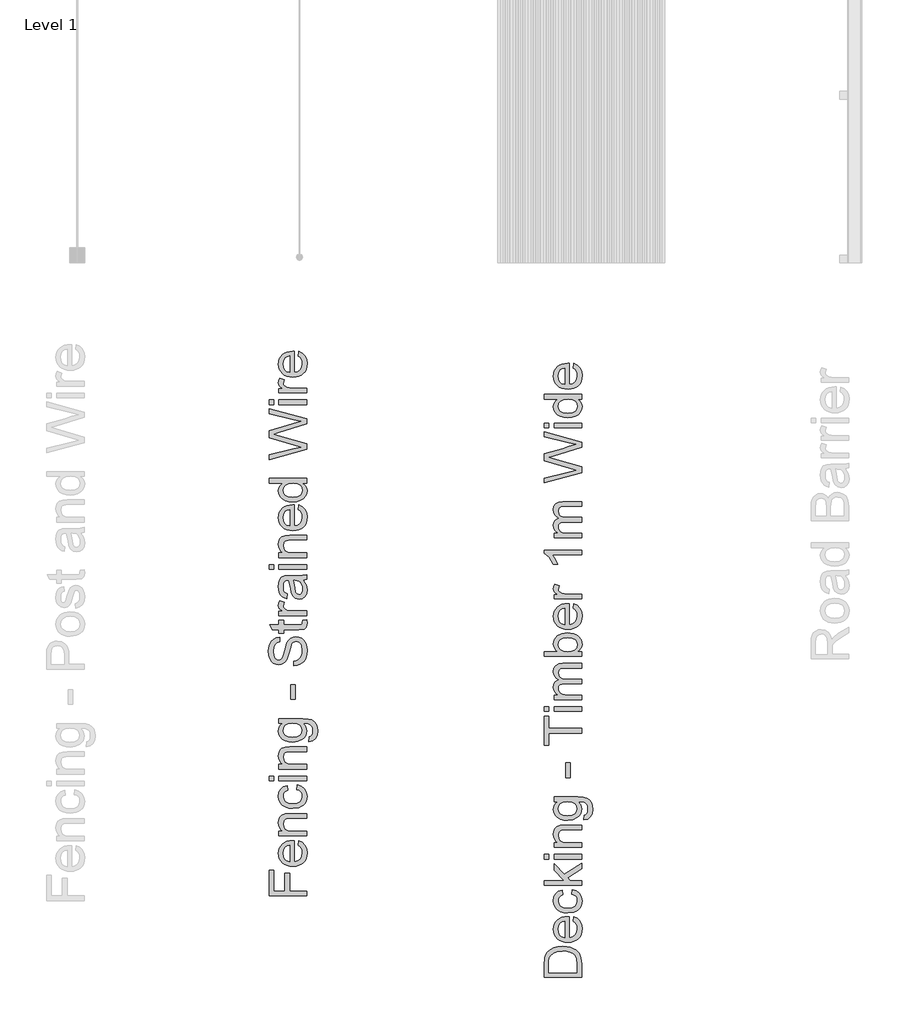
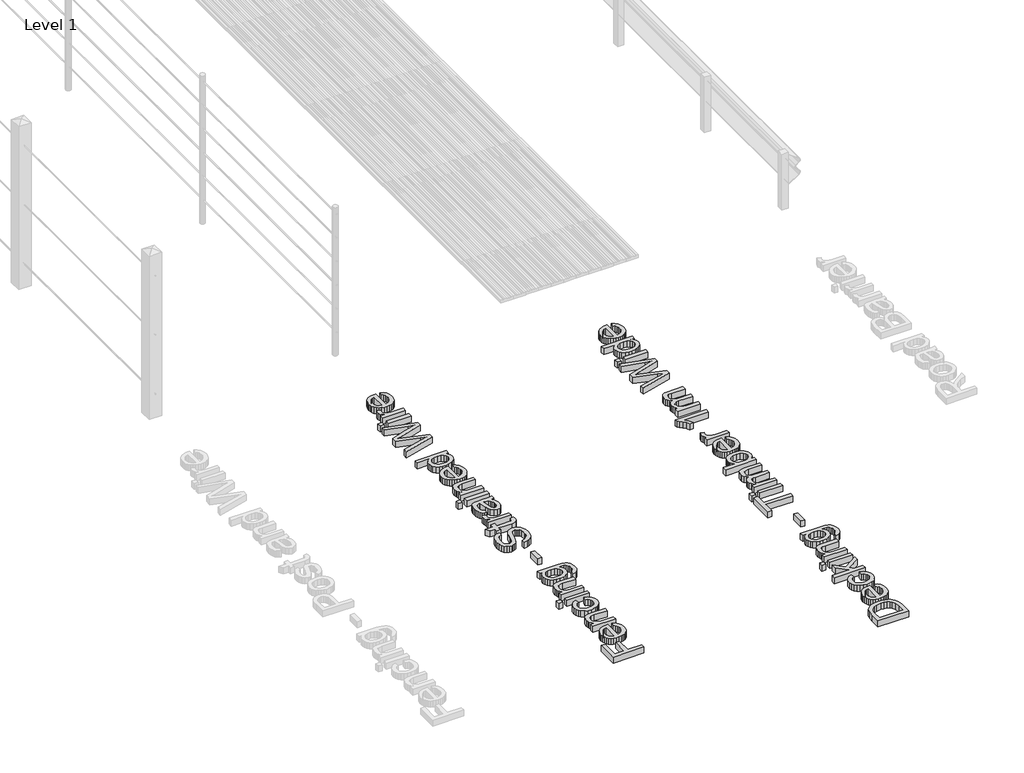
# One storey, part 6 of 7: 2 proxies.
"""IFC4 building model written with IfcOpenShell, lengths in millimetres."""

import ifcopenshell
import ifcopenshell.guid

model = None  # the IFC model being written
_history = None  # IfcOwnerHistory: only IFC2X3 demands one
_inside = {}  # id of a spatial element -> (the spatial element, [elements in it])
_under = {}  # id of a project, library or spatial element -> (it, [spatial elements below it])
_declared = {}  # id of a project -> (the project, [libraries it declares])
_typed = {}  # id of a type object -> (the type object, [elements of that type])
_made_of = {}  # id of a material, layer set ... -> (it, [elements and type objects made of it])


def new_model(schema):
    """Start an empty IFC model of exactly this schema.

    Asked for "IFC4X3", IfcOpenShell would pick the latest addendum, in which some entities
    have other attributes; the version numbers below select the first issue.
    IFC2X3 requires an IfcOwnerHistory on every rooted entity: one is made here for all.
    """
    global model, _history
    if schema == "IFC4X3":
        model = ifcopenshell.file(schema_version=(4, 3, 0, 0))
    else:
        model = ifcopenshell.file(schema=schema)
    _inside.clear()
    _under.clear()
    _declared.clear()
    _typed.clear()
    _made_of.clear()
    _history = None
    if model.schema == "IFC2X3":
        org = make("IfcOrganization", Name="unknown")
        user = make(
            "IfcPersonAndOrganization",
            ThePerson=make("IfcPerson", FamilyName="unknown"),
            TheOrganization=org,
        )
        app = make(
            "IfcApplication",
            ApplicationDeveloper=org,
            Version="unknown",
            ApplicationFullName="unknown",
            ApplicationIdentifier="unknown",
        )
        _history = make(
            "IfcOwnerHistory",
            OwningUser=user,
            OwningApplication=app,
            ChangeAction="ADDED",
            CreationDate=0,
        )
    return model


def make(cls, **values):
    """One entity of the class cls with the attributes given. An attribute that is None is left unset."""
    return model.create_entity(
        cls, **{name: value for name, value in values.items() if value is not None}
    )


def rooted(cls, **values):
    """An entity with a GlobalId (a new one), such as an element, a storey or a relation."""
    return make(cls, GlobalId=ifcopenshell.guid.new(), OwnerHistory=_history, **values)


def si_unit(unit_type, name, prefix=None):
    """IfcSIUnit, for example si_unit("LENGTHUNIT", "METRE", prefix="MILLI")."""
    return make("IfcSIUnit", UnitType=unit_type, Prefix=prefix, Name=name)


def assignment(units):
    """IfcUnitAssignment: the units of a project."""
    return None if units is None else make("IfcUnitAssignment", Units=units)


def point(xyz):
    """IfcCartesianPoint."""
    return None if xyz is None else make("IfcCartesianPoint", Coordinates=xyz)


def direction(xyz):
    """IfcDirection."""
    return None if xyz is None else make("IfcDirection", DirectionRatios=xyz)


def frame(location, z_axis=None, x_axis=None):
    """IfcAxis2Placement3D, a coordinate frame: its origin and axes. An axis left out is left unset."""
    return make(
        "IfcAxis2Placement3D",
        Location=point(location),
        Axis=direction(z_axis),
        RefDirection=direction(x_axis),
    )


def origin():
    """The frame at (0, 0, 0) with its axes left unset."""
    return frame((0.0, 0.0, 0.0))


def origin_with_axes():
    """The frame at (0, 0, 0) with the z axis (0, 0, 1) and the x axis (1, 0, 0) written out."""
    return frame((0.0, 0.0, 0.0), z_axis=(0.0, 0.0, 1.0), x_axis=(1.0, 0.0, 0.0))


def place(relative_to, where):
    """IfcLocalPlacement: puts the frame where relative to a parent placement (None: the world)."""
    return make(
        "IfcLocalPlacement", PlacementRelTo=relative_to, RelativePlacement=where
    )


def context(
    kind, dimensions, precision=None, world=None, true_north=None, identifier=None
):
    """IfcGeometricRepresentationContext, for example the 3D "Model" context."""
    return make(
        "IfcGeometricRepresentationContext",
        ContextIdentifier=identifier,
        ContextType=kind,
        CoordinateSpaceDimension=dimensions,
        Precision=precision,
        WorldCoordinateSystem=world,
        TrueNorth=true_north,
    )


def project(units=None, contexts=None):
    """IfcProject with its units and contexts."""
    return rooted(
        "IfcProject",
        Name="project",
        RepresentationContexts=contexts,
        UnitsInContext=assignment(units),
    )


def spatial(cls, under=None, at=None, **own):
    """A site, building, storey or space (cls), placed at a placement, below another one or the project."""
    s = rooted(cls, ObjectPlacement=at, **own)
    if under is not None:
        _under.setdefault(under.id(), (under, []))[1].append(s)
    return s


def polyline(points):
    """IfcPolyline through the points."""
    return make("IfcPolyline", Points=[point(p) for p in points])


def outline(outer, holes=None, kind="AREA"):
    """IfcArbitraryClosedProfileDef: a profile drawn as a closed curve; with holes, ...WithVoids."""
    if holes is None:
        return make("IfcArbitraryClosedProfileDef", ProfileType=kind, OuterCurve=outer)
    return make(
        "IfcArbitraryProfileDefWithVoids",
        ProfileType=kind,
        OuterCurve=outer,
        InnerCurves=holes,
    )


def extrude(swept, where, along, depth):
    """IfcExtrudedAreaSolid: the profile swept, set in the frame where, extruded along a direction by depth."""
    return make(
        "IfcExtrudedAreaSolid",
        SweptArea=swept,
        Position=where,
        ExtrudedDirection=direction(along),
        Depth=depth,
    )


def shape(context_of_items, identifier, shape_type, items):
    """IfcShapeRepresentation: the items that make up one representation, for example the "Body"."""
    return make(
        "IfcShapeRepresentation",
        ContextOfItems=context_of_items,
        RepresentationIdentifier=identifier,
        RepresentationType=shape_type,
        Items=items,
    )


def made_of(thing, what):
    """Note that an element or type object is made of a material, layer set ...; save() writes the relation."""
    if what is not None:
        _made_of.setdefault(what.id(), (what, []))[1].append(thing)
    return thing


def element(
    cls,
    number,
    at=None,
    inside=None,
    cuts=None,
    type_object=None,
    material=None,
    context=None,
    identifier="Body",
    shape_type=None,
    held_by="IfcProductDefinitionShape",
    body=None,
    shapes=None,
    **own,
):
    """One element of the class cls, such as IfcWall. Its Tag is "e" and its number.

    at: its placement. inside: the storey or other place that contains it. cuts: it is an
    opening in that element (IfcRelVoidsElement). A single representation is given by context,
    identifier, shape_type and body (its items); several are given by shapes. held_by: the class
    of the entity that holds the representations. save() writes the other relations.
    """
    e = rooted(cls, Tag="e%d" % number, ObjectPlacement=at, **own)
    if body is not None:
        shapes = [shape(context, identifier, shape_type, body)]
    if shapes is not None:
        e.Representation = make(held_by, Representations=shapes)
    if inside is not None:
        _inside.setdefault(inside.id(), (inside, []))[1].append(e)
    if cuts is not None:
        rooted(
            "IfcRelVoidsElement", RelatingBuildingElement=cuts, RelatedOpeningElement=e
        )
    if type_object is not None:
        _typed.setdefault(type_object.id(), (type_object, []))[1].append(e)
    return made_of(e, material)


def aggregate(whole, parts):
    """IfcRelAggregates: a whole, such as a stair, and the parts it consists of."""
    return rooted("IfcRelAggregates", RelatingObject=whole, RelatedObjects=parts)


def save(model, path):
    """Write the relations noted so far, then the file.

    IfcRelAggregates (storeys below a building ...), IfcRelContainedInSpatialStructure (elements
    in a storey), IfcRelDefinesByType, IfcRelAssociatesMaterial and IfcRelDeclares: one each for
    every whole, place, type object, material and project.
    """
    for whole, parts in _under.values():
        aggregate(whole, parts)
    for where, things in _inside.values():
        rooted(
            "IfcRelContainedInSpatialStructure",
            RelatedElements=things,
            RelatingStructure=where,
        )
    for kind, things in _typed.values():
        rooted("IfcRelDefinesByType", RelatedObjects=things, RelatingType=kind)
    for what, things in _made_of.values():
        rooted("IfcRelAssociatesMaterial", RelatedObjects=things, RelatingMaterial=what)
    for by, libraries in _declared.values():
        rooted("IfcRelDeclares", RelatingContext=by, RelatedDefinitions=libraries)
    model.write(path)


model = new_model("IFC4")

# Units and contexts
model_context = context("Model", 3, world=origin())
ifc_project = project(units=[si_unit("LENGTHUNIT", "METRE", prefix="MILLI")], contexts=[model_context])

# Site, building, storey
site = spatial("IfcSite", under=ifc_project)
building = spatial("IfcBuilding", under=site)
storey = spatial("IfcBuildingStorey", under=building, Name="Level 1", Elevation=0.0)

# Proxies
placement = place(None, origin())
element("IfcBuildingElementProxy", 1, Name="250mm Arial", ObjectType="250mm Arial", at=placement, inside=storey, context=model_context, shape_type="SweptSolid", body=[
    extrude(outline(polyline([(52003.1641347, -60632.3401509), (51757.0102885, -60632.3401509), (51757.0102885, -60466.9555355), (51787.7795193, -60466.9555355), (51787.7795193, -60601.5709201), (51860.8564423, -60601.5709201), (51860.8564423, -60486.1863047), (51891.6256731, -60486.1863047), (51891.6256731, -60601.5709201), (52003.1641347, -60601.5709201), (52003.1641347, -60632.3401509)])), origin_with_axes(), (0.0, 0.0, 1.0), 50.8),
    extrude(outline(polyline([(51949.3179808, -60301.931497), (51953.1641347, -60271.7632278), (51975.8955048, -60282.6331196), (51992.8876923, -60299.978372), (52003.4796395, -60323.40836), (52007.0102885, -60352.5324586), (52005.4872266, -60371.6242554), (52000.9180409, -60388.635223), (51993.3027314, -60403.5653612), (51982.6412981, -60416.4146701), (51969.2304658, -60426.7474525), (51953.3669592, -60434.1280114), (51935.0507783, -60438.5563468), (51914.2819231, -60440.0324586), (51892.8088161, -60438.5413227), (51873.8822837, -60434.0679153), (51857.5023258, -60426.6122362), (51843.6689423, -60416.1742855), (51832.6788582, -60403.3587807), (51824.8287981, -60388.7704393), (51820.1187621, -60372.4092614), (51818.54875, -60354.275247), (51820.115006, -60336.7252921), (51824.8137741, -60320.8542735), (51832.6450541, -60306.6621911), (51843.6088462, -60294.1490451), (51857.4121815, -60283.9345769), (51873.7620914, -60276.6385283), (51892.6585758, -60272.2608991), (51914.1016347, -60270.8016893), (51922.3949039, -60270.9819778), (51922.3949039, -60409.2632278), (51945.4267548, -60403.9372061), (51962.3588462, -60391.5649105), (51972.7705048, -60373.7088408), (51976.2410577, -60351.931497), (51974.6334856, -60335.5552951), (51969.8107693, -60321.7632278), (51961.4724279, -60310.5552951), (51949.3179808, -60301.931497)]), holes=[polyline([(51891.6256731, -60409.2632278), (51891.6256731, -60301.5709201), (51875.3696635, -60305.7325787), (51863.7410577, -60313.8906316), (51852.92375, -60331.8293336), (51849.3179808, -60354.3954393), (51852.1950842, -60375.1361244), (51860.8263943, -60392.2860643), (51874.2804207, -60404.2076388), (51891.6256731, -60409.2632278)])]), origin_with_axes(), (0.0, 0.0, 1.0), 50.8),
    extrude(outline(polyline([(52003.1641347, -60240.0324586), (51822.3949039, -60240.0324586), (51822.3949039, -60209.2632278), (51847.6352885, -60209.2632278), (51834.9099279, -60198.5736244), (51825.8203847, -60185.7355836), (51820.3666587, -60170.7491052), (51818.54875, -60153.6141893), (51824.408125, -60124.5576989), (51831.1839664, -60112.9741653), (51839.7927404, -60104.7259682), (51862.4189423, -60095.5012086), (51892.1665385, -60093.8786124), (52003.1641347, -60093.8786124), (52003.1641347, -60124.6478432), (51896.3131731, -60124.6478432), (51869.0896154, -60128.1935162), (51860.9841467, -60133.0988648), (51854.6965866, -60140.7235643), (51849.3179808, -60161.8473624), (51852.3378125, -60179.8686965), (51861.3973077, -60195.2307759), (51878.9003125, -60205.7551148), (51907.2506731, -60209.2632278), (52003.1641347, -60209.2632278), (52003.1641347, -60240.0324586)])), origin_with_axes(), (0.0, 0.0, 1.0), 50.8),
    extrude(outline(polyline([(51937.7795193, -59936.1863047), (51941.6256731, -59905.4170739), (51968.9919592, -59913.9957999), (51989.6725481, -59930.1165932), (52002.6758534, -59952.2620259), (52007.0102885, -59978.9146701), (52005.4984946, -59996.1716563), (52000.963113, -60011.6445379), (51993.4041437, -60025.3333149), (51982.8215866, -60037.2379874), (51969.4145103, -60046.8740301), (51953.3819832, -60053.7569177), (51913.440577, -60059.2632278), (51886.0592669, -60056.9119658), (51862.3287981, -60049.8581797), (51843.1656371, -60037.9891893), (51829.48625, -60021.1923143), (51821.283125, -60001.0976629), (51818.54875, -59979.3353432), (51822.3047597, -59953.3362446), (51833.5727885, -59932.5504874), (51851.751875, -59917.6391292), (51876.2410577, -59909.2632278), (51880.0872116, -59940.0324586), (51866.6632332, -59945.6138888), (51857.0403366, -59954.3052951), (51851.2485698, -59965.6259081), (51849.3179808, -59979.0949586), (51853.1190625, -59998.9792735), (51864.5223077, -60014.7620259), (51884.143702, -60025.0610042), (51912.5992308, -60028.493997), (51941.4378726, -60025.1361244), (51961.126875, -60015.0625066), (51972.4625121, -59999.565211), (51976.2410577, -59979.9363047), (51973.8822837, -59964.0033119), (51966.8059616, -59950.9399105), (51954.8318029, -59941.4372061), (51937.7795193, -59936.1863047)])), origin_with_axes(), (0.0, 0.0, 1.0), 50.8),
    extrude(outline(polyline([(51787.7795193, -59878.493997), (51757.0102885, -59878.493997), (51757.0102885, -59847.7247662), (51787.7795193, -59847.7247662), (51787.7795193, -59878.493997)])), origin_with_axes(), (0.0, 0.0, 1.0), 50.8),
    extrude(outline(polyline([(52003.1641347, -59878.493997), (51822.3949039, -59878.493997), (51822.3949039, -59847.7247662), (52003.1641347, -59847.7247662), (52003.1641347, -59878.493997)])), origin_with_axes(), (0.0, 0.0, 1.0), 50.8),
    extrude(outline(polyline([(52003.1641347, -59801.5709201), (51822.3949039, -59801.5709201), (51822.3949039, -59770.8016893), (51847.6352885, -59770.8016893), (51834.9099279, -59760.112086), (51825.8203847, -59747.2740451), (51820.3666587, -59732.2875667), (51818.54875, -59715.1526509), (51824.408125, -59686.0961605), (51831.1839664, -59674.5126268), (51839.7927404, -59666.2644297), (51862.4189423, -59657.0396701), (51892.1665385, -59655.4170739), (52003.1641347, -59655.4170739), (52003.1641347, -59686.1863047), (51896.3131731, -59686.1863047), (51869.0896154, -59689.7319778), (51860.9841467, -59694.6373263), (51854.6965866, -59702.2620259), (51849.3179808, -59723.3858239), (51852.3378125, -59741.4071581), (51861.3973077, -59756.7692374), (51878.9003125, -59767.2935763), (51907.2506731, -59770.8016893), (52003.1641347, -59770.8016893), (52003.1641347, -59801.5709201)])), origin_with_axes(), (0.0, 0.0, 1.0), 50.8),
    extrude(outline(polyline([(52018.54875, -59620.8016893), (52022.3949039, -59590.0324586), (52032.0102885, -59586.6370259), (52038.6208654, -59580.056497), (52043.7590866, -59567.1207999), (52045.471827, -59550.1887086), (52043.533726, -59532.1298143), (52037.7194231, -59518.6983239), (52028.4045193, -59509.3834201), (52015.9646154, -59503.6742855), (51980.0872116, -59501.5709201), (51997.3949039, -59523.2355836), (52003.1641347, -59549.6478432), (52001.4851984, -59566.5179604), (51996.4483895, -59581.3711004), (51988.053708, -59594.2072632), (51976.3011539, -59605.0264489), (51946.7638943, -59619.7424946), (51911.878077, -59624.6478432), (51887.0358294, -59622.4468215), (51864.1917789, -59615.8437566), (51844.8333053, -59605.0715211), (51830.4477885, -59590.3629874), (51821.5235097, -59572.221461), (51818.54875, -59551.150247), (51820.2314423, -59536.7609742), (51825.2795193, -59523.7013287), (51833.6929808, -59511.9713107), (51845.471827, -59501.5709201), (51822.3949039, -59501.5709201), (51822.3949039, -59470.8016893), (51978.4646154, -59470.8016893), (52014.4997717, -59472.9050547), (52038.2302404, -59479.2151509), (52053.9679207, -59490.0850427), (52066.0247116, -59505.8677951), (52073.6869712, -59526.2178552), (52076.2410577, -59550.7896701), (52072.6428005, -59579.4179754), (52061.8480289, -59601.9615451), (52043.8266948, -59616.4221821), (52018.54875, -59620.8016893)]), holes=[polyline([(51909.7747116, -59593.8786124), (51937.9973678, -59590.59586), (51957.4009135, -59580.7476028), (51968.6464063, -59565.9414129), (51972.3949039, -59547.7848624), (51968.6689423, -59529.7635283), (51957.4910577, -59514.8822182), (51938.3354087, -59504.8987446), (51910.6761539, -59501.5709201), (51884.0009736, -59504.9964009), (51864.7927404, -59515.2728432), (51853.1866707, -59530.3720018), (51849.3179808, -59548.2656316), (51853.1265746, -59565.8362446), (51864.5523558, -59580.5673143), (51883.4751323, -59590.5507879), (51909.7747116, -59593.8786124)])]), origin_with_axes(), (0.0, 0.0, 1.0), 50.8),
    extrude(outline(polyline([(51930.0872116, -59343.8786124), (51899.3179808, -59343.8786124), (51899.3179808, -59247.7247662), (51930.0872116, -59247.7247662), (51930.0872116, -59343.8786124)])), origin_with_axes(), (0.0, 0.0, 1.0), 50.8),
    extrude(outline(polyline([(51918.54875, -59124.6478432), (51918.54875, -59093.8786124), (51935.6235698, -59090.3479634), (51949.3480289, -59083.962747), (51960.2404568, -59074.0018095), (51968.8191827, -59059.743997), (51974.385589, -59042.3161124), (51976.2410577, -59022.8449586), (51970.6220673, -58990.6935162), (51963.9513943, -58978.5315571), (51955.1773558, -58969.9302951), (51945.103738, -58964.81461), (51934.534327, -58963.1093816), (51915.3336058, -58968.2175547), (51907.7389544, -58976.0000066), (51901.36125, -58989.1310162), (51889.612452, -59033.9326989), (51874.4381731, -59082.1598624), (51864.0866106, -59097.4768696), (51851.5415385, -59108.3317374), (51837.0733895, -59114.799586), (51820.9525962, -59116.9555355), (51802.9312621, -59114.2887686), (51786.126875, -59106.2884682), (51771.8840866, -59093.1649706), (51761.5475481, -59075.1286124), (51755.259988, -59053.478973), (51753.1641347, -59029.5156316), (51755.3576443, -59003.5540932), (51761.9381731, -58980.837747), (51772.7705048, -58962.1778912), (51787.7194231, -58948.3858239), (51805.8534375, -58939.6568576), (51826.2410577, -58936.1863047), (51826.2410577, -58966.9555355), (51807.8816827, -58972.6045739), (51794.6304808, -58984.3834201), (51786.6076443, -59002.7878672), (51783.9333654, -59028.3137086), (51786.5775962, -59054.4405114), (51794.5102885, -59072.3641893), (51806.1839664, -59082.7307759), (51820.0511539, -59086.1863047), (51831.8750722, -59083.7373864), (51841.3852885, -59076.3906316), (51849.8888943, -59059.0228432), (51858.5727885, -59026.150247), (51874.0175, -58971.7031316), (51885.1803606, -58954.1625667), (51898.9574039, -58941.9254874), (51915.1983895, -58934.736485), (51933.753077, -58932.3401509), (51952.7209255, -58935.0970619), (51970.5619712, -58943.3677951), (51985.9165385, -58956.8143095), (51997.424952, -58975.0985643), (52004.6139544, -58997.0862446), (52007.0102885, -59021.6430355), (52004.4261539, -59051.7887686), (51996.67375, -59076.6009682), (51983.7230289, -59096.3650908), (51965.5439423, -59111.3665932), (51943.3985097, -59120.9970018), (51918.54875, -59124.6478432)])), origin_with_axes(), (0.0, 0.0, 1.0), 50.8),
    extrude(outline(polyline([(51977.503077, -58824.6478432), (52004.065577, -58820.8016893), (52007.0102885, -58843.8185162), (52005.7332452, -58858.5871461), (52001.9021154, -58869.5997662), (51988.5006731, -58882.4603432), (51953.5848077, -58886.1863047), (51853.1641347, -58886.1863047), (51853.1641347, -58909.2632278), (51822.3949039, -58909.2632278), (51822.3949039, -58886.1863047), (51778.4646154, -58886.1863047), (51760.3756731, -58855.4170739), (51822.3949039, -58855.4170739), (51822.3949039, -58824.6478432), (51853.1641347, -58824.6478432), (51853.1641347, -58855.4170739), (51952.6833654, -58855.4170739), (51968.54875, -58853.7944778), (51974.1677404, -58848.5360643), (51976.2410577, -58838.0492855), (51977.503077, -58824.6478432)])), origin_with_axes(), (0.0, 0.0, 1.0), 50.8),
    extrude(outline(polyline([(52003.1641347, -58793.8786124), (51822.3949039, -58793.8786124), (51822.3949039, -58766.9555355), (51849.1376923, -58766.9555355), (51833.6328847, -58757.009622), (51824.4982693, -58747.8449586), (51818.54875, -58728.6141893), (51820.9225481, -58713.2896701), (51828.0439423, -58697.7247662), (51855.628077, -58708.0012086), (51849.3179808, -58729.6358239), (51850.8354087, -58738.8230235), (51855.3876923, -58747.0336605), (51872.2146154, -58758.1214009), (51908.1521154, -58763.1093816), (52003.1641347, -58763.1093816), (52003.1641347, -58793.8786124)])), origin_with_axes(), (0.0, 0.0, 1.0), 50.8),
    extrude(outline(polyline([(51980.0872116, -58563.1093816), (51992.6923798, -58577.8104033), (52000.940577, -58592.947122), (52005.4928606, -58608.8650908), (52007.0102885, -58625.9098624), (52003.3594472, -58651.6235042), (51992.4069231, -58670.5913528), (51975.7753125, -58682.2875667), (51955.0872116, -58686.1863047), (51930.7482693, -58680.2968816), (51913.08, -58664.822122), (51902.9838462, -58643.2776509), (51898.3564423, -58616.6550547), (51887.7795193, -58563.2896701), (51880.9285577, -58563.1093816), (51867.1965866, -58565.2277711), (51858.2122116, -58571.5829393), (51851.5415385, -58585.7956797), (51849.3179808, -58605.5973624), (51850.7978486, -58623.9266893), (51855.237452, -58636.7271701), (51863.448089, -58645.4561364), (51876.2410577, -58651.5709201), (51872.3949039, -58682.3401509), (51855.5679808, -58676.9991052), (51842.346827, -58669.0288528), (51832.2356491, -58657.6857037), (51824.7386539, -58642.2259682), (51820.096226, -58623.3182158), (51818.54875, -58601.6310162), (51819.9159375, -58580.830235), (51824.0175, -58564.3413528), (51830.1848678, -58551.908961), (51837.7494712, -58543.2776509), (51858.6328847, -58533.8425547), (51885.5559616, -58532.3401509), (51923.8372116, -58532.3401509), (51977.2927404, -58530.7776509), (52003.1641347, -58524.6478432), (52003.1641347, -58555.4170739), (51980.0872116, -58563.1093816)]), holes=[polyline([(51918.54875, -58563.1093816), (51927.9838462, -58612.7488047), (51932.971827, -58639.2211605), (51941.0848077, -58651.2103432), (51952.92375, -58655.4170739), (51962.0733895, -58653.1259081), (51969.5703847, -58646.2524105), (51974.5733895, -58634.9468215), (51976.2410577, -58619.3593816), (51974.400613, -58602.8329393), (51968.8792789, -58588.2295739), (51960.7437621, -58576.3906316), (51951.0607693, -58568.1574586), (51927.2626923, -58563.2896701), (51918.54875, -58563.1093816)])]), origin_with_axes(), (0.0, 0.0, 1.0), 50.8),
    extrude(outline(polyline([(51787.7795193, -58490.0324586), (51757.0102885, -58490.0324586), (51757.0102885, -58459.2632278), (51787.7795193, -58459.2632278), (51787.7795193, -58490.0324586)])), origin_with_axes(), (0.0, 0.0, 1.0), 50.8),
    extrude(outline(polyline([(52003.1641347, -58490.0324586), (51822.3949039, -58490.0324586), (51822.3949039, -58459.2632278), (52003.1641347, -58459.2632278), (52003.1641347, -58490.0324586)])), origin_with_axes(), (0.0, 0.0, 1.0), 50.8),
    extrude(outline(polyline([(52003.1641347, -58413.1093816), (51822.3949039, -58413.1093816), (51822.3949039, -58382.3401509), (51847.6352885, -58382.3401509), (51834.9099279, -58371.6505475), (51825.8203847, -58358.8125066), (51820.3666587, -58343.8260283), (51818.54875, -58326.6911124), (51824.408125, -58297.634622), (51831.1839664, -58286.0510884), (51839.7927404, -58277.8028912), (51862.4189423, -58268.5781316), (51892.1665385, -58266.9555355), (52003.1641347, -58266.9555355), (52003.1641347, -58297.7247662), (51896.3131731, -58297.7247662), (51869.0896154, -58301.2704393), (51860.9841467, -58306.1757879), (51854.6965866, -58313.8004874), (51849.3179808, -58334.9242855), (51852.3378125, -58352.9456196), (51861.3973077, -58368.3076989), (51878.9003125, -58378.8320379), (51907.2506731, -58382.3401509), (52003.1641347, -58382.3401509), (52003.1641347, -58413.1093816)])), origin_with_axes(), (0.0, 0.0, 1.0), 50.8),
    extrude(outline(polyline([(51949.3179808, -58098.0853432), (51953.1641347, -58067.9170739), (51975.8955048, -58078.7869658), (51992.8876923, -58096.1322182), (52003.4796395, -58119.5622061), (52007.0102885, -58148.6863047), (52005.4872266, -58167.7781016), (52000.9180409, -58184.7890691), (51993.3027314, -58199.7192074), (51982.6412981, -58212.5685162), (51969.2304658, -58222.9012987), (51953.3669592, -58230.2818576), (51935.0507783, -58234.7101929), (51914.2819231, -58236.1863047), (51892.8088161, -58234.6951689), (51873.8822837, -58230.2217614), (51857.5023258, -58222.7660824), (51843.6689423, -58212.3281316), (51832.6788582, -58199.5126268), (51824.8287981, -58184.9242855), (51820.1187621, -58168.5631076), (51818.54875, -58150.4290932), (51820.115006, -58132.8791382), (51824.8137741, -58117.0081196), (51832.6450541, -58102.8160373), (51843.6088462, -58090.3028912), (51857.4121815, -58080.0884231), (51873.7620914, -58072.7923744), (51892.6585758, -58068.4147452), (51914.1016347, -58066.9555355), (51922.3949039, -58067.1358239), (51922.3949039, -58205.4170739), (51945.4267548, -58200.0910523), (51962.3588462, -58187.7187566), (51972.7705048, -58169.8626869), (51976.2410577, -58148.0853432), (51974.6334856, -58131.7091412), (51969.8107693, -58117.9170739), (51961.4724279, -58106.7091412), (51949.3179808, -58098.0853432)]), holes=[polyline([(51891.6256731, -58205.4170739), (51891.6256731, -58097.7247662), (51875.3696635, -58101.8864249), (51863.7410577, -58110.0444778), (51852.92375, -58127.9831797), (51849.3179808, -58150.5492855), (51852.1950842, -58171.2899706), (51860.8263943, -58188.4399105), (51874.2804207, -58200.361485), (51891.6256731, -58205.4170739)])]), origin_with_axes(), (0.0, 0.0, 1.0), 50.8),
    extrude(outline(polyline([(52003.1641347, -57924.6478432), (51974.1376923, -57924.6478432), (51988.5194532, -57933.8538227), (51998.7921395, -57945.0054153), (52004.9557512, -57958.1026208), (52007.0102885, -57973.1454393), (52004.0355289, -57993.0372662), (51995.11125, -58011.2464009), (51980.8609496, -58026.6610643), (51961.908125, -58038.1694778), (51939.0190024, -58045.3359441), (51912.9598077, -58047.7247662), (51887.2236298, -58045.5237446), (51863.9814423, -58038.9206797), (51844.5553606, -58027.9230836), (51830.2675, -58012.5384682), (51821.4784375, -57993.9311965), (51818.54875, -57973.2656316), (51820.6446034, -57958.2115451), (51826.9321635, -57944.900247), (51836.5700842, -57933.6171941), (51848.7170193, -57924.6478432), (51757.0102885, -57924.6478432), (51757.0102885, -57893.8786124), (52003.1641347, -57893.8786124), (52003.1641347, -57924.6478432)]), holes=[polyline([(51912.8396154, -58016.9555355), (51940.6716467, -58013.4849826), (51960.4658173, -58003.0733239), (51972.2972476, -57987.9441172), (51976.2410577, -57970.3209201), (51972.4775361, -57952.705235), (51961.1869712, -57937.9591412), (51942.1590265, -57927.9756677), (51915.1833654, -57924.6478432), (51885.6911779, -57928.0357638), (51865.2434616, -57938.1995259), (51853.299351, -57953.3212206), (51849.3179808, -57971.5829393), (51853.1415986, -57989.3864249), (51864.612452, -58003.9747662), (51884.3164784, -58013.7103432), (51912.8396154, -58016.9555355)])]), origin_with_axes(), (0.0, 0.0, 1.0), 50.8),
    extrude(outline(polyline([(52003.1641347, -57703.6742855), (51757.0102885, -57770.8016893), (51757.0102885, -57739.0709201), (51918.7891347, -57700.1286124), (51968.7290385, -57688.1093816), (51924.5583654, -57675.2488047), (51757.0102885, -57626.4507278), (51757.0102885, -57580.7175547), (51878.4646154, -57545.2608239), (51923.5367308, -57530.0715211), (51968.7290385, -57518.8786124), (51920.2314423, -57507.2199586), (51757.0102885, -57467.9170739), (51757.0102885, -57436.1863047), (52003.1641347, -57503.3738047), (52003.1641347, -57536.2464009), (51813.2602885, -57595.2608239), (51786.7578847, -57603.493997), (51818.6689423, -57612.7488047), (52003.1641347, -57666.5348624), (52003.1641347, -57703.6742855)])), origin_with_axes(), (0.0, 0.0, 1.0), 50.8),
    extrude(outline(polyline([(51787.7795193, -57409.2632278), (51757.0102885, -57409.2632278), (51757.0102885, -57378.493997), (51787.7795193, -57378.493997), (51787.7795193, -57409.2632278)])), origin_with_axes(), (0.0, 0.0, 1.0), 50.8),
    extrude(outline(polyline([(52003.1641347, -57409.2632278), (51822.3949039, -57409.2632278), (51822.3949039, -57378.493997), (52003.1641347, -57378.493997), (52003.1641347, -57409.2632278)])), origin_with_axes(), (0.0, 0.0, 1.0), 50.8),
    extrude(outline(polyline([(52003.1641347, -57332.3401509), (51822.3949039, -57332.3401509), (51822.3949039, -57305.4170739), (51849.1376923, -57305.4170739), (51833.6328847, -57295.4711605), (51824.4982693, -57286.306497), (51818.54875, -57267.0757278), (51820.9225481, -57251.7512086), (51828.0439423, -57236.1863047), (51855.628077, -57246.462747), (51849.3179808, -57268.0973624), (51850.8354087, -57277.2845619), (51855.3876923, -57285.4951989), (51872.2146154, -57296.5829393), (51908.1521154, -57301.5709201), (52003.1641347, -57301.5709201), (52003.1641347, -57332.3401509)])), origin_with_axes(), (0.0, 0.0, 1.0), 50.8),
    extrude(outline(polyline([(51949.3179808, -57090.3930355), (51953.1641347, -57060.2247662), (51975.8955048, -57071.0946581), (51992.8876923, -57088.4399105), (52003.4796395, -57111.8698985), (52007.0102885, -57140.993997), (52005.4872266, -57160.0857939), (52000.9180409, -57177.0967614), (51993.3027314, -57192.0268997), (51982.6412981, -57204.8762086), (51969.2304658, -57215.208991), (51953.3669592, -57222.5895499), (51935.0507783, -57227.0178852), (51914.2819231, -57228.493997), (51892.8088161, -57227.0028612), (51873.8822837, -57222.5294537), (51857.5023258, -57215.0737747), (51843.6689423, -57204.6358239), (51832.6788582, -57191.8203191), (51824.8287981, -57177.2319778), (51820.1187621, -57160.8707999), (51818.54875, -57142.7367855), (51820.115006, -57125.1868305), (51824.8137741, -57109.3158119), (51832.6450541, -57095.1237296), (51843.6088462, -57082.6105836), (51857.4121815, -57072.3961154), (51873.7620914, -57065.1000667), (51892.6585758, -57060.7224375), (51914.1016347, -57059.2632278), (51922.3949039, -57059.4435162), (51922.3949039, -57197.7247662), (51945.4267548, -57192.3987446), (51962.3588462, -57180.0264489), (51972.7705048, -57162.1703792), (51976.2410577, -57140.3930355), (51974.6334856, -57124.0168336), (51969.8107693, -57110.2247662), (51961.4724279, -57099.0168336), (51949.3179808, -57090.3930355)]), holes=[polyline([(51891.6256731, -57197.7247662), (51891.6256731, -57090.0324586), (51875.3696635, -57094.1941172), (51863.7410577, -57102.3521701), (51852.92375, -57120.290872), (51849.3179808, -57142.8569778), (51852.1950842, -57163.5976629), (51860.8263943, -57180.7476028), (51874.2804207, -57192.6691773), (51891.6256731, -57197.7247662)])]), origin_with_axes(), (0.0, 0.0, 1.0), 50.8),
])
element("IfcBuildingElementProxy", 2, Name="250mm Arial", ObjectType="250mm Arial", at=placement, inside=storey, context=model_context, shape_type="SweptSolid", body=[
    extrude(outline(polyline([(53808.2087659, -61168.9987925), (53562.0549197, -61168.9987925), (53562.0549197, -61084.0829271), (53565.6005928, -61040.1526386), (53572.4365303, -61020.5312444), (53583.2087659, -61003.974754), (53601.9587659, -60986.9525184), (53625.2760736, -60974.8281194), (53652.7099678, -60967.5715088), (53683.8097274, -60965.1526386), (53710.229499, -60966.7902588), (53733.4791986, -60971.7031194), (53753.2733692, -60979.1850905), (53769.3265543, -60988.5300425), (53791.6522755, -61011.006004), (53804.0020351, -61040.4230713), (53808.2087659, -61079.9963886), (53808.2087659, -61168.9987925)]), holes=[polyline([(53777.4395351, -61138.2295617), (53777.4395351, -61083.7824463), (53772.9924197, -61044.1790809), (53760.4323236, -61021.3425425), (53747.1135135, -61010.6529391), (53729.8734293, -61002.6225905), (53708.636951, -60997.5970497), (53683.3289582, -60995.9218694), (53649.7953043, -60999.2046218), (53625.0356889, -61009.052879), (53608.0284774, -61023.6036603), (53597.7520351, -61040.9939848), (53594.0561216, -61058.6923021), (53592.8241505, -61084.6237925), (53592.8241505, -61138.2295617), (53777.4395351, -61138.2295617)])]), origin_with_axes(), (0.0, 0.0, 1.0), 50.8),
    extrude(outline(polyline([(53754.362612, -60800.1286002), (53758.2087659, -60769.9603309), (53780.9401361, -60780.8302228), (53797.9323236, -60798.1754752), (53808.5242707, -60821.6054631), (53812.0549197, -60850.7295617), (53810.5318578, -60869.8213586), (53805.9626721, -60886.8323261), (53798.3473626, -60901.7624643), (53787.6859293, -60914.6117732), (53774.275097, -60924.9445557), (53758.4115904, -60932.3251146), (53740.0954095, -60936.7534499), (53719.3265543, -60938.2295617), (53697.8534474, -60936.7384259), (53678.9269149, -60932.2650184), (53662.546957, -60924.8093393), (53648.7135736, -60914.3713886), (53637.7234894, -60901.5558838), (53629.8734293, -60886.9675425), (53625.1633933, -60870.6063646), (53623.5933812, -60852.4723502), (53625.1596373, -60834.9223952), (53629.8584053, -60819.0513766), (53637.6896853, -60804.8592943), (53648.6534774, -60792.3461482), (53662.4568127, -60782.1316801), (53678.8067226, -60774.8356314), (53697.703207, -60770.4580022), (53719.1462659, -60768.9987925), (53727.4395351, -60769.1790809), (53727.4395351, -60907.4603309), (53750.4713861, -60902.1343093), (53767.4034774, -60889.7620136), (53777.8151361, -60871.9059439), (53781.2856889, -60850.1286002), (53779.6781168, -60833.7523982), (53774.8554005, -60819.9603309), (53766.5170591, -60808.7523982), (53754.362612, -60800.1286002)]), holes=[polyline([(53696.6703043, -60907.4603309), (53696.6703043, -60799.7680232), (53680.4142947, -60803.9296819), (53668.7856889, -60812.0877348), (53657.9683812, -60830.0264367), (53654.362612, -60852.5925425), (53657.2397154, -60873.3332276), (53665.8710255, -60890.4831675), (53679.3250519, -60902.404742), (53696.6703043, -60907.4603309)])]), origin_with_axes(), (0.0, 0.0, 1.0), 50.8),
    extrude(outline(polyline([(53742.8241505, -60622.8449463), (53746.6703043, -60592.0757155), (53774.0365904, -60600.6544415), (53794.7171793, -60616.7752348), (53807.7204846, -60638.9206675), (53812.0549197, -60665.5733117), (53810.5431258, -60682.8302979), (53806.0077442, -60698.3031795), (53798.4487749, -60711.9919565), (53787.8662178, -60723.896629), (53774.4591415, -60733.5326717), (53758.4266144, -60740.4155593), (53718.4852082, -60745.9218694), (53691.1038981, -60743.5706074), (53667.3734293, -60736.5168213), (53648.2102683, -60724.6478309), (53634.5308812, -60707.8509559), (53626.3277562, -60687.7563045), (53623.5933812, -60665.9939848), (53627.3493909, -60639.9948862), (53638.6174197, -60619.209129), (53656.7965062, -60604.2977708), (53681.2856889, -60595.9218694), (53685.1318428, -60626.6911002), (53671.7078644, -60632.2725305), (53662.0849678, -60640.9639367), (53656.293201, -60652.2845497), (53654.362612, -60665.7536002), (53658.1636937, -60685.6379151), (53669.5669389, -60701.4206675), (53689.1883332, -60711.7196458), (53717.643862, -60715.1526386), (53746.4825038, -60711.794766), (53766.1715062, -60701.7211482), (53777.5071433, -60686.2238526), (53781.2856889, -60666.5949463), (53778.9269149, -60650.6619535), (53771.8505928, -60637.5985521), (53759.8764341, -60628.0958478), (53742.8241505, -60622.8449463)])), origin_with_axes(), (0.0, 0.0, 1.0), 50.8),
    extrude(outline(polyline([(53808.2087659, -60565.1526386), (53562.0549197, -60565.1526386), (53562.0549197, -60534.3834079), (53694.3265543, -60534.3834079), (53627.4395351, -60465.3930232), (53627.4395351, -60422.8449463), (53695.1679005, -60492.6766771), (53808.2087659, -60418.9987925), (53808.2087659, -60454.9362925), (53716.5621312, -60514.7319655), (53735.612612, -60534.3834079), (53808.2087659, -60534.3834079), (53808.2087659, -60565.1526386)])), origin_with_axes(), (0.0, 0.0, 1.0), 50.8),
    extrude(outline(polyline([(53592.8241505, -60392.0757155), (53562.0549197, -60392.0757155), (53562.0549197, -60361.3064848), (53592.8241505, -60361.3064848), (53592.8241505, -60392.0757155)])), origin_with_axes(), (0.0, 0.0, 1.0), 50.8),
    extrude(outline(polyline([(53808.2087659, -60392.0757155), (53627.4395351, -60392.0757155), (53627.4395351, -60361.3064848), (53808.2087659, -60361.3064848), (53808.2087659, -60392.0757155)])), origin_with_axes(), (0.0, 0.0, 1.0), 50.8),
    extrude(outline(polyline([(53808.2087659, -60315.1526386), (53627.4395351, -60315.1526386), (53627.4395351, -60284.3834079), (53652.6799197, -60284.3834079), (53639.9545591, -60273.6938045), (53630.8650159, -60260.8557636), (53625.4112899, -60245.8692853), (53623.5933812, -60228.7343694), (53629.4527562, -60199.677879), (53636.2285976, -60188.0943454), (53644.8373716, -60179.8461482), (53667.4635736, -60170.6213886), (53697.2111697, -60168.9987925), (53808.2087659, -60168.9987925), (53808.2087659, -60199.7680232), (53701.3578043, -60199.7680232), (53674.1342466, -60203.3136963), (53666.0287779, -60208.2190449), (53659.7412178, -60215.8437444), (53654.362612, -60236.9675425), (53657.3824437, -60254.9888766), (53666.4419389, -60270.3509559), (53683.9449437, -60280.8752949), (53712.2953043, -60284.3834079), (53808.2087659, -60284.3834079), (53808.2087659, -60315.1526386)])), origin_with_axes(), (0.0, 0.0, 1.0), 50.8),
    extrude(outline(polyline([(53823.5933812, -60134.3834079), (53827.4395351, -60103.6141771), (53837.0549197, -60100.2187444), (53843.6654966, -60093.6382155), (53848.8037178, -60080.7025184), (53850.5164582, -60063.7704271), (53848.5783572, -60045.7115329), (53842.7640543, -60032.2800425), (53833.4491505, -60022.9651386), (53821.0092466, -60017.256004), (53785.1318428, -60015.1526386), (53802.4395351, -60036.8173021), (53808.2087659, -60063.2295617), (53806.5298296, -60080.0996789), (53801.4930207, -60094.9528189), (53793.0983392, -60107.7889818), (53781.3457851, -60118.6081675), (53751.8085255, -60133.3242131), (53716.9227082, -60138.2295617), (53692.0804606, -60136.0285401), (53669.2364101, -60129.4254752), (53649.8779365, -60118.6532396), (53635.4924197, -60103.9447059), (53626.5681409, -60085.8031795), (53623.5933812, -60064.7319655), (53625.2760736, -60050.3426927), (53630.3241505, -60037.2830473), (53638.737612, -60025.5530292), (53650.5164582, -60015.1526386), (53627.4395351, -60015.1526386), (53627.4395351, -59984.3834079), (53783.5092466, -59984.3834079), (53819.5444029, -59986.4867732), (53843.2748716, -59992.7968694), (53859.0125519, -60003.6667612), (53871.0693428, -60019.4495136), (53878.7316024, -60039.7995737), (53881.2856889, -60064.3713886), (53877.6874317, -60092.9996939), (53866.8926601, -60115.5432636), (53848.871326, -60130.0039006), (53823.5933812, -60134.3834079)]), holes=[polyline([(53714.8193428, -60107.4603309), (53743.041999, -60104.1775785), (53762.4455447, -60094.3293213), (53773.6910375, -60079.5231314), (53777.4395351, -60061.3665809), (53773.7135736, -60043.3452468), (53762.5356889, -60028.4639367), (53743.3800399, -60018.4804631), (53715.7207851, -60015.1526386), (53689.0456048, -60018.5781194), (53669.8373716, -60028.8545617), (53658.2313019, -60043.9537204), (53654.362612, -60061.8473502), (53658.1712058, -60079.4179631), (53669.596987, -60094.1490329), (53688.5197635, -60104.1325064), (53714.8193428, -60107.4603309)])]), origin_with_axes(), (0.0, 0.0, 1.0), 50.8),
    extrude(outline(polyline([(53735.1318428, -59857.4603309), (53704.362612, -59857.4603309), (53704.362612, -59761.3064848), (53735.1318428, -59761.3064848), (53735.1318428, -59857.4603309)])), origin_with_axes(), (0.0, 0.0, 1.0), 50.8),
    extrude(outline(polyline([(53808.2087659, -59565.1526386), (53592.8241505, -59565.1526386), (53592.8241505, -59645.9218694), (53562.0549197, -59645.9218694), (53562.0549197, -59453.6141771), (53592.8241505, -59453.6141771), (53592.8241505, -59534.3834079), (53808.2087659, -59534.3834079), (53808.2087659, -59565.1526386)])), origin_with_axes(), (0.0, 0.0, 1.0), 50.8),
    extrude(outline(polyline([(53592.8241505, -59422.8449463), (53562.0549197, -59422.8449463), (53562.0549197, -59392.0757155), (53592.8241505, -59392.0757155), (53592.8241505, -59422.8449463)])), origin_with_axes(), (0.0, 0.0, 1.0), 50.8),
    extrude(outline(polyline([(53808.2087659, -59422.8449463), (53627.4395351, -59422.8449463), (53627.4395351, -59392.0757155), (53808.2087659, -59392.0757155), (53808.2087659, -59422.8449463)])), origin_with_axes(), (0.0, 0.0, 1.0), 50.8),
    extrude(outline(polyline([(53808.2087659, -59345.9218694), (53627.4395351, -59345.9218694), (53627.4395351, -59315.1526386), (53657.1871312, -59315.1526386), (53643.5227683, -59305.8978309), (53632.8181409, -59293.9987925), (53625.8995711, -59279.8611723), (53623.5933812, -59263.8906194), (53625.9446433, -59246.7782396), (53632.9984293, -59233.0612925), (53644.2889942, -59222.8148982), (53659.3505928, -59216.1141771), (53643.7068127, -59204.8987324), (53632.5326841, -59192.1057636), (53625.828207, -59177.7352708), (53623.5933812, -59161.787254), (53627.3118308, -59138.6577468), (53638.4671793, -59121.552879), (53657.3599077, -59110.983468), (53684.2904966, -59107.4603309), (53808.2087659, -59107.4603309), (53808.2087659, -59138.2295617), (53697.5116505, -59138.2295617), (53671.8205447, -59141.084129), (53659.1703043, -59151.4206675), (53654.362612, -59168.9987925), (53657.4425399, -59185.6679631), (53666.6823236, -59199.2572059), (53682.7129726, -59208.2941651), (53706.1654966, -59211.3064848), (53808.2087659, -59211.3064848), (53808.2087659, -59242.0757155), (53694.0861697, -59242.0757155), (53676.6883332, -59243.8560641), (53664.2784774, -59249.1971098), (53656.8415784, -59258.5946458), (53654.362612, -59272.5444655), (53656.0152562, -59284.3984319), (53660.9731889, -59295.3209079), (53669.1162178, -59304.3353309), (53680.3241505, -59310.4651386), (53717.0429005, -59315.1526386), (53808.2087659, -59315.1526386), (53808.2087659, -59345.9218694)])), origin_with_axes(), (0.0, 0.0, 1.0), 50.8),
    extrude(outline(polyline([(53808.2087659, -59030.537254), (53808.2087659, -59061.3064848), (53562.0549197, -59061.3064848), (53562.0549197, -59030.537254), (53653.3409774, -59030.537254), (53640.3264041, -59020.4185641), (53631.0302803, -59008.9927829), (53625.452606, -58996.2599103), (53623.5933812, -58982.2199463), (53625.2685615, -58966.3695857), (53630.2941024, -58951.3906194), (53638.354499, -58938.1394175), (53649.1342466, -58927.4723502), (53678.4311216, -58912.7788405), (53715.1198236, -58907.4603309), (53756.1955447, -58912.966641), (53772.7895952, -58919.8495286), (53786.7544389, -58929.4855713), (53805.7297995, -58953.7268574), (53810.4736397, -58967.5095347), (53812.0549197, -58982.4002348), (53810.0154065, -58996.9021879), (53803.8968668, -59009.7590088), (53793.6993007, -59020.9706975), (53779.4227082, -59030.537254), (53808.2087659, -59030.537254)]), holes=[polyline([(53716.5621312, -59030.537254), (53742.2231889, -59028.4338886), (53759.5909774, -59022.1237925), (53775.8620111, -59006.0029992), (53781.2856889, -58985.0444655), (53777.2892947, -58967.2860521), (53765.300112, -58952.1117732), (53745.3932611, -58941.7001146), (53717.643862, -58938.2295617), (53689.4888139, -58941.5573862), (53669.8073236, -58951.5408598), (53658.2237899, -58966.2418814), (53654.362612, -58983.7223502), (53658.3590062, -59001.4807636), (53670.3481889, -59016.6550425), (53689.894463, -59027.0667011), (53716.5621312, -59030.537254)])]), origin_with_axes(), (0.0, 0.0, 1.0), 50.8),
    extrude(outline(polyline([(53754.362612, -58746.2824463), (53758.2087659, -58716.1141771), (53780.9401361, -58726.9840689), (53797.9323236, -58744.3293213), (53808.5242707, -58767.7593093), (53812.0549197, -58796.8834079), (53810.5318578, -58815.9752047), (53805.9626721, -58832.9861723), (53798.3473626, -58847.9163105), (53787.6859293, -58860.7656194), (53774.275097, -58871.0984018), (53758.4115904, -58878.4789607), (53740.0954095, -58882.9072961), (53719.3265543, -58884.3834079), (53697.8534474, -58882.892272), (53678.9269149, -58878.4188646), (53662.546957, -58870.9631855), (53648.7135736, -58860.5252348), (53637.7234894, -58847.70973), (53629.8734293, -58833.1213886), (53625.1633933, -58816.7602107), (53623.5933812, -58798.6261963), (53625.1596373, -58781.0762414), (53629.8584053, -58765.2052228), (53637.6896853, -58751.0131404), (53648.6534774, -58738.4999944), (53662.4568127, -58728.2855262), (53678.8067226, -58720.9894776), (53697.703207, -58716.6118484), (53719.1462659, -58715.1526386), (53727.4395351, -58715.3329271), (53727.4395351, -58853.6141771), (53750.4713861, -58848.2881555), (53767.4034774, -58835.9158598), (53777.8151361, -58818.0597901), (53781.2856889, -58796.2824463), (53779.6781168, -58779.9062444), (53774.8554005, -58766.1141771), (53766.5170591, -58754.9062444), (53754.362612, -58746.2824463)]), holes=[polyline([(53696.6703043, -58853.6141771), (53696.6703043, -58745.9218694), (53680.4142947, -58750.083528), (53668.7856889, -58758.2415809), (53657.9683812, -58776.1802829), (53654.362612, -58798.7463886), (53657.2397154, -58819.4870737), (53665.8710255, -58836.6370136), (53679.3250519, -58848.5585881), (53696.6703043, -58853.6141771)])]), origin_with_axes(), (0.0, 0.0, 1.0), 50.8),
    extrude(outline(polyline([(53808.2087659, -58684.3834079), (53627.4395351, -58684.3834079), (53627.4395351, -58657.4603309), (53654.1823236, -58657.4603309), (53638.6775159, -58647.5144175), (53629.5429005, -58638.349754), (53623.5933812, -58619.1189848), (53625.9671793, -58603.7944655), (53633.0885736, -58588.2295617), (53660.6727082, -58598.506004), (53654.362612, -58620.1406194), (53655.8800399, -58629.3278189), (53660.4323236, -58637.5384559), (53677.2592466, -58648.6261963), (53713.1967466, -58653.6141771), (53808.2087659, -58653.6141771), (53808.2087659, -58684.3834079)])), origin_with_axes(), (0.0, 0.0, 1.0), 50.8),
    extrude(outline(polyline([(53808.2087659, -58365.1526386), (53808.2087659, -58395.9218694), (53616.3818428, -58395.9218694), (53637.1450639, -58425.068504), (53652.6799197, -58457.4603309), (53623.5933812, -58457.4603309), (53610.4473476, -58433.2941651), (53594.8073236, -58412.3581675), (53578.175713, -58395.8542612), (53562.0549197, -58384.9843694), (53562.0549197, -58365.1526386), (53808.2087659, -58365.1526386)])), origin_with_axes(), (0.0, 0.0, 1.0), 50.8),
    extrude(outline(polyline([(53808.2087659, -58284.3834079), (53627.4395351, -58284.3834079), (53627.4395351, -58253.6141771), (53657.1871312, -58253.6141771), (53643.5227683, -58244.3593694), (53632.8181409, -58232.4603309), (53625.8995711, -58218.3227107), (53623.5933812, -58202.3521579), (53625.9446433, -58185.239778), (53632.9984293, -58171.5228309), (53644.2889942, -58161.2764367), (53659.3505928, -58154.5757155), (53643.7068127, -58143.3602708), (53632.5326841, -58130.5673021), (53625.828207, -58116.1968093), (53623.5933812, -58100.2487925), (53627.3118308, -58077.1192853), (53638.4671793, -58060.0144175), (53657.3599077, -58049.4450064), (53684.2904966, -58045.9218694), (53808.2087659, -58045.9218694), (53808.2087659, -58076.6911002), (53697.5116505, -58076.6911002), (53671.8205447, -58079.5456675), (53659.1703043, -58089.8822059), (53654.362612, -58107.4603309), (53657.4425399, -58124.1295016), (53666.6823236, -58137.7187444), (53682.7129726, -58146.7557035), (53706.1654966, -58149.7680232), (53808.2087659, -58149.7680232), (53808.2087659, -58180.537254), (53694.0861697, -58180.537254), (53676.6883332, -58182.3176026), (53664.2784774, -58187.6586482), (53656.8415784, -58197.0561843), (53654.362612, -58211.006004), (53656.0152562, -58222.8599704), (53660.9731889, -58233.7824463), (53669.1162178, -58242.7968694), (53680.3241505, -58248.9266771), (53717.0429005, -58253.6141771), (53808.2087659, -58253.6141771), (53808.2087659, -58284.3834079)])), origin_with_axes(), (0.0, 0.0, 1.0), 50.8),
    extrude(outline(polyline([(53808.2087659, -57855.7175425), (53562.0549197, -57922.8449463), (53562.0549197, -57891.1141771), (53723.8337659, -57852.1718694), (53773.7736697, -57840.1526386), (53729.6029966, -57827.2920617), (53562.0549197, -57778.4939848), (53562.0549197, -57732.7608117), (53683.5092466, -57697.3040809), (53728.581362, -57682.114778), (53773.7736697, -57670.9218694), (53725.2760736, -57659.2632155), (53562.0549197, -57619.9603309), (53562.0549197, -57588.2295617), (53808.2087659, -57655.4170617), (53808.2087659, -57688.2896579), (53618.3049197, -57747.3040809), (53591.8025159, -57755.537254), (53623.7135736, -57764.7920617), (53808.2087659, -57818.5781194), (53808.2087659, -57855.7175425)])), origin_with_axes(), (0.0, 0.0, 1.0), 50.8),
    extrude(outline(polyline([(53592.8241505, -57561.3064848), (53562.0549197, -57561.3064848), (53562.0549197, -57530.537254), (53592.8241505, -57530.537254), (53592.8241505, -57561.3064848)])), origin_with_axes(), (0.0, 0.0, 1.0), 50.8),
    extrude(outline(polyline([(53808.2087659, -57561.3064848), (53627.4395351, -57561.3064848), (53627.4395351, -57530.537254), (53808.2087659, -57530.537254), (53808.2087659, -57561.3064848)])), origin_with_axes(), (0.0, 0.0, 1.0), 50.8),
    extrude(outline(polyline([(53808.2087659, -57372.8449463), (53779.1823236, -57372.8449463), (53793.5640844, -57382.0509259), (53803.8367707, -57393.2025184), (53810.0003824, -57406.299724), (53812.0549197, -57421.3425425), (53809.0801601, -57441.2343694), (53800.1558812, -57459.443504), (53785.9055808, -57474.8581675), (53766.9527562, -57486.3665809), (53744.0636336, -57493.5330473), (53718.0044389, -57495.9218694), (53692.2682611, -57493.7208478), (53669.0260736, -57487.1177829), (53649.5999918, -57476.1201867), (53635.3121312, -57460.7355713), (53626.5230687, -57442.1282997), (53623.5933812, -57421.4627348), (53625.6892346, -57406.4086482), (53631.9767947, -57393.0973502), (53641.6147154, -57381.8142973), (53653.7616505, -57372.8449463), (53562.0549197, -57372.8449463), (53562.0549197, -57342.0757155), (53808.2087659, -57342.0757155), (53808.2087659, -57372.8449463)]), holes=[polyline([(53717.8842466, -57465.1526386), (53745.7162779, -57461.6820857), (53765.5104486, -57451.2704271), (53777.3418788, -57436.1412204), (53781.2856889, -57418.5180232), (53777.5221673, -57400.9023381), (53766.2316024, -57386.1562444), (53747.2036577, -57376.1727708), (53720.2279966, -57372.8449463), (53690.7358091, -57376.232867), (53670.2880928, -57386.396629), (53658.3439822, -57401.5183237), (53654.362612, -57419.7800425), (53658.1862298, -57437.583528), (53669.6570832, -57452.1718694), (53689.3611096, -57461.9074463), (53717.8842466, -57465.1526386)])]), origin_with_axes(), (0.0, 0.0, 1.0), 50.8),
    extrude(outline(polyline([(53754.362612, -57169.3593694), (53758.2087659, -57139.1911002), (53780.9401361, -57150.060992), (53797.9323236, -57167.4062444), (53808.5242707, -57190.8362324), (53812.0549197, -57219.9603309), (53810.5318578, -57239.0521278), (53805.9626721, -57256.0630954), (53798.3473626, -57270.9932336), (53787.6859293, -57283.8425425), (53774.275097, -57294.1753249), (53758.4115904, -57301.5558838), (53740.0954095, -57305.9842192), (53719.3265543, -57307.4603309), (53697.8534474, -57305.9691951), (53678.9269149, -57301.4957877), (53662.546957, -57294.0401086), (53648.7135736, -57283.6021579), (53637.7234894, -57270.786653), (53629.8734293, -57256.1983117), (53625.1633933, -57239.8371338), (53623.5933812, -57221.7031194), (53625.1596373, -57204.1531645), (53629.8584053, -57188.2821458), (53637.6896853, -57174.0900635), (53648.6534774, -57161.5769175), (53662.4568127, -57151.3624493), (53678.8067226, -57144.0664006), (53697.703207, -57139.6887714), (53719.1462659, -57138.2295617), (53727.4395351, -57138.4098502), (53727.4395351, -57276.6911002), (53750.4713861, -57271.3650785), (53767.4034774, -57258.9927829), (53777.8151361, -57241.1367131), (53781.2856889, -57219.3593694), (53779.6781168, -57202.9831675), (53774.8554005, -57189.1911002), (53766.5170591, -57177.9831675), (53754.362612, -57169.3593694)]), holes=[polyline([(53696.6703043, -57276.6911002), (53696.6703043, -57168.9987925), (53680.4142947, -57173.1604511), (53668.7856889, -57181.318504), (53657.9683812, -57199.2572059), (53654.362612, -57221.8233117), (53657.2397154, -57242.5639968), (53665.8710255, -57259.7139367), (53679.3250519, -57271.6355112), (53696.6703043, -57276.6911002)])]), origin_with_axes(), (0.0, 0.0, 1.0), 50.8),
])

save(model, "model.ifc")
